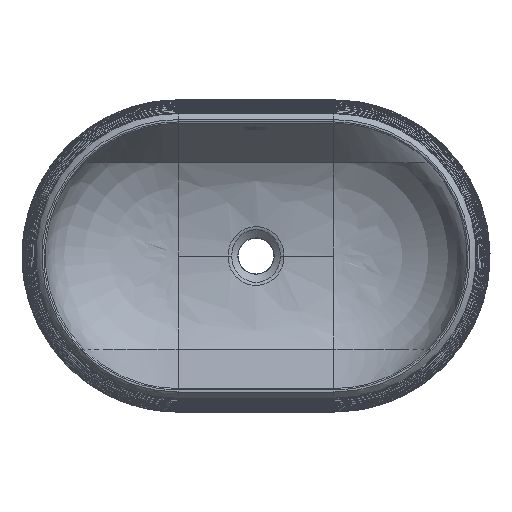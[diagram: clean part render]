
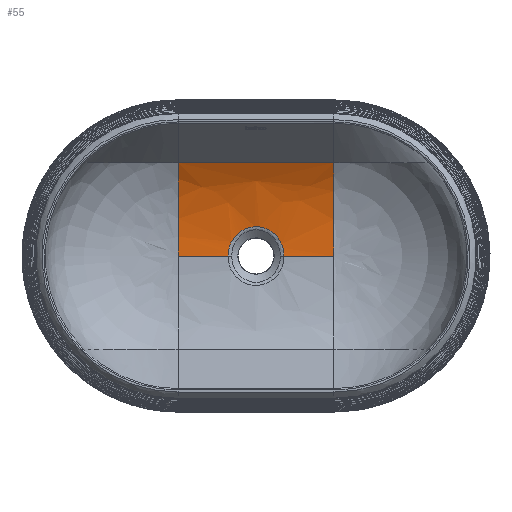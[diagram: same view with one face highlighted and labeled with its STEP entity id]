
A CAD part, top view. The second image highlights one B-rep face of the part: STEP entity #55.
In plain terms, the highlighted free-form (B-spline) face has degree [3, 1] with [4, 2] control points.
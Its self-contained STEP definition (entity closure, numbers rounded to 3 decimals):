
#55=ADVANCED_FACE('',(#562),#6447,.T.);
#562=FACE_OUTER_BOUND('',#1069,.T.);
#1069=EDGE_LOOP('',(#1661,#1662,#1663,#1664,#1665,#1666));
#1661=ORIENTED_EDGE('',*,*,#3703,.T.);
#1662=ORIENTED_EDGE('',*,*,#3658,.T.);
#1663=ORIENTED_EDGE('',*,*,#3653,.F.);
#1664=ORIENTED_EDGE('',*,*,#3651,.T.);
#1665=ORIENTED_EDGE('',*,*,#3650,.T.);
#1666=ORIENTED_EDGE('',*,*,#3705,.F.);
#3650=EDGE_CURVE('',#5741,#5774,#4757,.T.);
#3651=EDGE_CURVE('',#5743,#5741,#4758,.T.);
#3653=EDGE_CURVE('',#5743,#5744,#4760,.T.);
#3658=EDGE_CURVE('',#5742,#5744,#4765,.T.);
#3703=EDGE_CURVE('',#5773,#5742,#4786,.T.);
#3705=EDGE_CURVE('',#5773,#5774,#4719,.T.);
#4719=(
BOUNDED_CURVE()
B_SPLINE_CURVE(3,(#98605,#98606,#98607,#98608,#98609,#98610,#98611,#98612,
#98613,#98614,#98615,#98616,#98617,#98618,#98619,#98620,#98621,#98622,#98623,
#98624,#98625,#98626,#98627,#98628,#98629),.UNSPECIFIED.,.F.,.F.)
B_SPLINE_CURVE_WITH_KNOTS((4,1,1,1,1,1,1,1,1,1,1,1,1,1,1,1,1,1,1,3,4),(0.,
10.843,18.064,28.856,34.439,40.022,
47.448,53.033,58.618,64.203,69.787,
73.559,77.33,82.909,88.488,99.282,
102.836,106.39,111.755,117.12,117.12),
 .UNSPECIFIED.)
CURVE()
GEOMETRIC_REPRESENTATION_ITEM()
RATIONAL_B_SPLINE_CURVE((1.,1.,1.,1.,1.,1.,
1.,1.,1.,1.,1.,1.,1.,1.,1.,
1.,1.,1.,1.,1.,1.,1.,1.,1.,1.))
REPRESENTATION_ITEM('')
);
#4757=B_SPLINE_CURVE_WITH_KNOTS('',1,(#98120,#98121),.UNSPECIFIED.,.F.,
 .F.,(2,2),(0.,63.972),.UNSPECIFIED.);
#4758=B_SPLINE_CURVE_WITH_KNOTS('',3,(#98122,#98123,#98124,#98125),
 .UNSPECIFIED.,.F.,.F.,(4,4),(0.56,1.),.UNSPECIFIED.);
#4760=B_SPLINE_CURVE_WITH_KNOTS('',1,(#98128,#98129),.UNSPECIFIED.,.F.,
 .F.,(2,2),(0.,200.),.UNSPECIFIED.);
#4765=B_SPLINE_CURVE_WITH_KNOTS('',3,(#98194,#98195,#98196,#98197),
 .UNSPECIFIED.,.F.,.F.,(4,4),(-1.,-0.56),.UNSPECIFIED.);
#4786=B_SPLINE_CURVE_WITH_KNOTS('',1,(#98601,#98602),.UNSPECIFIED.,.F.,
 .F.,(2,2),(136.028,200.),.UNSPECIFIED.);
#5741=VERTEX_POINT('',#97662);
#5742=VERTEX_POINT('',#97663);
#5743=VERTEX_POINT('',#97664);
#5744=VERTEX_POINT('',#97665);
#5773=VERTEX_POINT('',#97694);
#5774=VERTEX_POINT('',#97695);
#6447=B_SPLINE_SURFACE_WITH_KNOTS('',3,1,((#8174,#8175),(#8176,#8177),(#8178,
#8179),(#8180,#8181)),.UNSPECIFIED.,.F.,.F.,.F.,(4,4),(2,2),(0.,227.778),
(0.,200.),.UNSPECIFIED.);
#8174=CARTESIAN_POINT('',(28684.315,1512.326,-6716.588));
#8175=CARTESIAN_POINT('',(28884.315,1512.326,-6716.588));
#8176=CARTESIAN_POINT('',(28684.315,1507.452,-6789.31));
#8177=CARTESIAN_POINT('',(28884.315,1507.452,-6789.31));
#8178=CARTESIAN_POINT('',(28684.315,1442.362,-6829.498));
#8179=CARTESIAN_POINT('',(28884.315,1442.362,-6829.498));
#8180=CARTESIAN_POINT('',(28684.315,1341.326,-6829.498));
#8181=CARTESIAN_POINT('',(28884.315,1341.326,-6829.498));
#97662=CARTESIAN_POINT('',(28684.315,1341.326,-6829.498));
#97663=CARTESIAN_POINT('',(28884.315,1341.326,-6829.498));
#97664=CARTESIAN_POINT('',(28684.315,1461.326,-6801.311));
#97665=CARTESIAN_POINT('',(28884.315,1461.326,-6801.311));
#97694=CARTESIAN_POINT('',(28820.344,1341.326,-6829.498));
#97695=CARTESIAN_POINT('',(28748.287,1341.326,-6829.498));
#98120=CARTESIAN_POINT('',(28684.315,1341.326,-6829.498));
#98121=CARTESIAN_POINT('',(28748.287,1341.326,-6829.498));
#98122=CARTESIAN_POINT('',(28684.315,1461.326,-6801.311));
#98123=CARTESIAN_POINT('',(28684.315,1431.919,-6819.8));
#98124=CARTESIAN_POINT('',(28684.315,1390.96,-6829.498));
#98125=CARTESIAN_POINT('',(28684.315,1341.326,-6829.498));
#98128=CARTESIAN_POINT('',(28684.315,1461.326,-6801.311));
#98129=CARTESIAN_POINT('',(28884.315,1461.326,-6801.311));
#98194=CARTESIAN_POINT('',(28884.315,1341.326,-6829.498));
#98195=CARTESIAN_POINT('',(28884.315,1390.96,-6829.498));
#98196=CARTESIAN_POINT('',(28884.315,1431.919,-6819.8));
#98197=CARTESIAN_POINT('',(28884.315,1461.326,-6801.311));
#98601=CARTESIAN_POINT('',(28820.344,1341.326,-6829.498));
#98602=CARTESIAN_POINT('',(28884.315,1341.326,-6829.498));
#98605=CARTESIAN_POINT('',(28820.344,1341.326,-6829.498));
#98606=CARTESIAN_POINT('',(28820.345,1344.871,-6829.499));
#98607=CARTESIAN_POINT('',(28819.534,1350.771,-6829.413));
#98608=CARTESIAN_POINT('',(28816.162,1359.623,-6829.073));
#98609=CARTESIAN_POINT('',(28811.798,1366.095,-6828.666));
#98610=CARTESIAN_POINT('',(28806.55,1371.092,-6828.259));
#98611=CARTESIAN_POINT('',(28801.506,1374.621,-6827.932));
#98612=CARTESIAN_POINT('',(28795.869,1377.203,-6827.662));
#98613=CARTESIAN_POINT('',(28789.843,1378.696,-6827.496));
#98614=CARTESIAN_POINT('',(28784.257,1379.145,-6827.444));
#98615=CARTESIAN_POINT('',(28778.673,1378.677,-6827.498));
#98616=CARTESIAN_POINT('',(28773.836,1377.461,-6827.633));
#98617=CARTESIAN_POINT('',(28769.785,1375.841,-6827.804));
#98618=CARTESIAN_POINT('',(28765.938,1373.806,-6828.008));
#98619=CARTESIAN_POINT('',(28761.905,1370.948,-6828.271));
#98620=CARTESIAN_POINT('',(28756.692,1365.921,-6828.678));
#98621=CARTESIAN_POINT('',(28753.036,1360.435,-6829.02));
#98622=CARTESIAN_POINT('',(28750.729,1355.049,-6829.248));
#98623=CARTESIAN_POINT('',(28749.464,1351.169,-6829.377));
#98624=CARTESIAN_POINT('',(28748.524,1346.586,-6829.474));
#98625=CARTESIAN_POINT('',(28748.287,1343.08,-6829.498));
#98626=CARTESIAN_POINT('',(28748.287,1341.326,-6829.498));
#98627=CARTESIAN_POINT('',(28748.287,1341.326,-6829.498));
#98628=CARTESIAN_POINT('',(28748.287,1341.326,-6829.498));
#98629=CARTESIAN_POINT('',(28748.287,1341.326,-6829.498));
